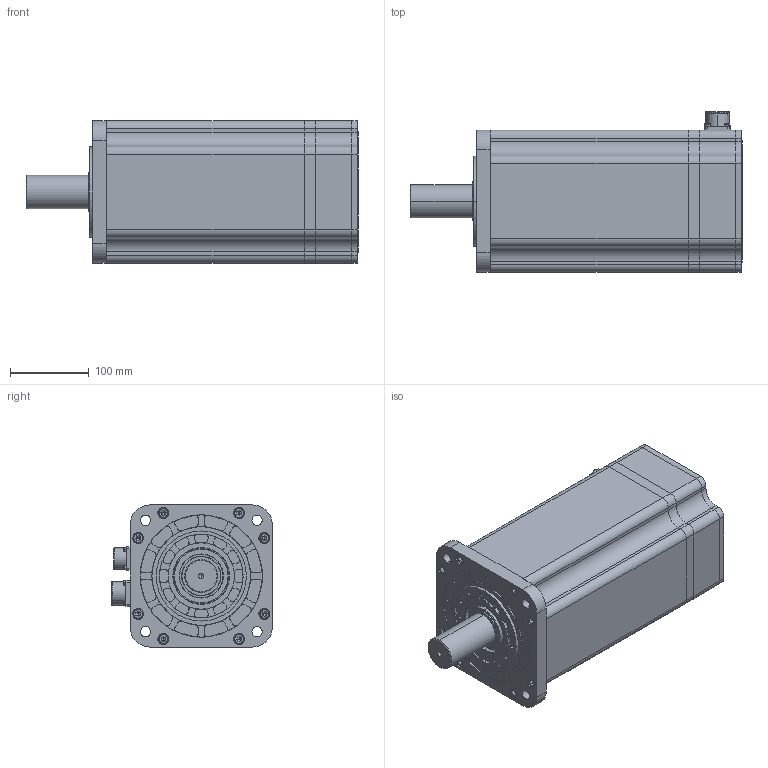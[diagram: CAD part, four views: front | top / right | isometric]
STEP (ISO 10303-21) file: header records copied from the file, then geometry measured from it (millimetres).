
FILE_DESCRIPTION (( 'STEP AP203' ), '1' );
FILE_NAME ('70680283£¨JLBH-2520-74-7RV£©.STEP', '2020-03-12T11:28:47', ( '' ), ( '' ), 'SwSTEP 2.0', 'SolidWorks 2016', '' );
FILE_SCHEMA (( 'CONFIG_CONTROL_DESIGN' ));
Length unit declared in the file: millimetre
Products named in the file (19): 1.2.02.300002 囀鞠褒 M5X16_GB_FASTENER_SCREWS_HSHCS M5X16-C; hexagon socket head cap screws gb_GB_FASTENER_SCREWS_HSHCS M3X10-N; 1.1.01.KEB1801-0001 前端盖（180）; 1.2.09.000014 粣創 6207_Rolling bearings 6207 GB 276-94; 1.2.02.800002 囀鞠褒 M8X20_GB_FASTENER_SCREWS_HSHCS M8X20-C; 1.1.12.KHG180-0001码盘罩后盖（180）; 1.2.09.000013 粣創 6310_Rolling bearings 6310 GB 276-94; 1.1.07.KSF180-0001 转轴（180总长307.5-轴承档147）-配HN20多圈; 1.1.13.KYB180-0001 轴承压板（180）; 1.2.02.800003 坋趼麥芛 M8X16_GB_CROSS_SCREWS_TYPE4 M8X16-11.35  H type-C; 1.3.03.200006 蚐猾 50x72x8; 1.1.11.KMP180-0001 码盘罩（180L46）; 70680283（JLBH-2520-74-7RV）; 1.1.02.KEB1802-0001 后端盖（180节圆55）; 1.2.02.800001 囀鞠褒 M8X45_GB_FASTENER_SCREWS_HSHCS M8X45-C; 1.1.21.KEB1803-0001 机壳（180L174）; 1.2.05.100022 6郋弊莉萇埭菁釱; 1.2.05.200006 17郋弊莉陓瘍菁釱; 隅赽軞傖
Assembly tree (47 placements, depth 3):
  70680283（JLBH-2520-74-7RV）
    1.1.07.KSF180-0001 转轴（180总长307.5-轴承档147）-配HN20多圈
    1.2.09.000013 粣創 6310_Rolling bearings 6310 GB 276-94
    1.2.09.000014 粣創 6207_Rolling bearings 6207 GB 276-94
    1.1.02.KEB1802-0001 后端盖（180节圆55）
    隅赽軞傖
      1.1.21.KEB1803-0001 机壳（180L174）
      1.1.01.KEB1801-0001 前端盖（180）
      1.3.03.200006 蚐猾 50x72x8
    1.1.13.KYB180-0001 轴承压板（180）
    1.2.02.300002 囀鞠褒 M5X16_GB_FASTENER_SCREWS_HSHCS M5X16-C  x6
    1.2.02.800002 囀鞠褒 M8X20_GB_FASTENER_SCREWS_HSHCS M8X20-C  x12
    1.2.02.800001 囀鞠褒 M8X45_GB_FASTENER_SCREWS_HSHCS M8X45-C  x4
    1.1.11.KMP180-0001 码盘罩（180L46）
    1.1.12.KHG180-0001码盘罩后盖（180）
    1.2.02.800003 坋趼麥芛 M8X16_GB_CROSS_SCREWS_TYPE4 M8X16-11.35  H type-C  x4
    1.2.05.100022 6郋弊莉萇埭菁釱
    1.2.05.200006 17郋弊莉陓瘍菁釱
    hexagon socket head cap screws gb_GB_FASTENER_SCREWS_HSHCS M3X10-N  x8
Bounding box: 420.8 x 203.5 x 180 mm (x, y, z)
Volume: 3630669.5 mm3; surface area: 903758.6 mm2
Topology: 46 solids, 46 shells, 2288 faces, 6291 edges, 4009 vertices
Faces by surface type: plane 895, cylinder 887, torus 200, cone 194, sphere 110, bspline 2
Entity records: 57632 total; most frequent: CARTESIAN_POINT 12998, DIRECTION 9305, ORIENTED_EDGE 8682, EDGE_CURVE 4341, AXIS2_PLACEMENT_3D 3824, VERTEX_POINT 2857, CIRCLE 2212, EDGE_LOOP 1826
